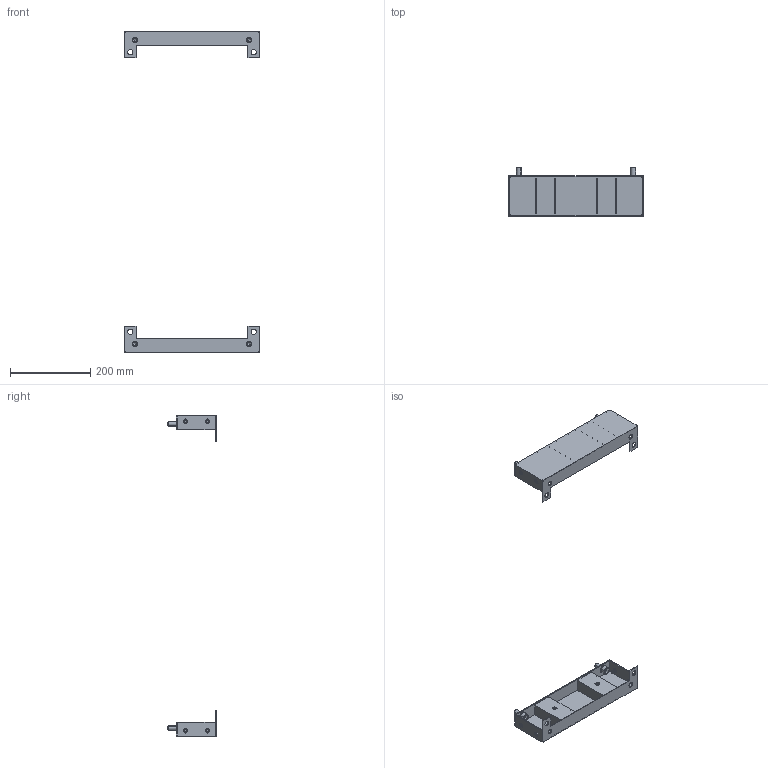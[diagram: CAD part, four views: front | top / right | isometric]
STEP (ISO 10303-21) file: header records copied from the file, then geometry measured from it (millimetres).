
FILE_DESCRIPTION (( 'STEP AP203' ), '1' );
FILE_NAME ('R6PLB40 H=800.STEP', '2025-05-16T11:40:49', ( '' ), ( '' ), 'SwSTEP 2.0', 'SolidWorks 2022', '' );
FILE_SCHEMA (( 'CONFIG_CONTROL_DESIGN' ));
Length unit declared in the file: millimetre
Products named in the file (8): RB.3309.00.01.0 simple_-02; 12 DIN 6798 A Zinc; M6 MGS-MPO-0635_thread; M6 MGS-MPO-0635_straight; RB.3309.00.02.0 simple; RB.3309.00.00.0 СБ simple_-02; M12x25 DIN 912 HX cl.8,8 Zinc_stright; R6PLB40 H=800
Assembly tree (19 placements, depth 3):
  R6PLB40 H=800
    RB.3309.00.00.0 СБ simple_-02  x2
      RB.3309.00.01.0 simple_-02
      M6 MGS-MPO-0635_thread
      RB.3309.00.02.0 simple
      M6 MGS-MPO-0635_straight
    12 DIN 6798 A Zinc  x4
    M12x25 DIN 912 HX cl.8,8 Zinc_stright  x4
Bounding box: 336.7 x 121.5 x 800 mm (x, y, z)
Volume: 435300.7 mm3; surface area: 360525.4 mm2
Topology: 26 solids, 26 shells, 1568 faces, 4128 edges, 2388 vertices
Faces by surface type: plane 640, cylinder 544, bspline 168, sphere 144, cone 40, torus 32
Entity records: 15002 total; most frequent: CARTESIAN_POINT 5755, ORIENTED_EDGE 1768, DIRECTION 1539, EDGE_CURVE 884, VERTEX_POINT 558, LINE 533, VECTOR 533, AXIS2_PLACEMENT_3D 503
